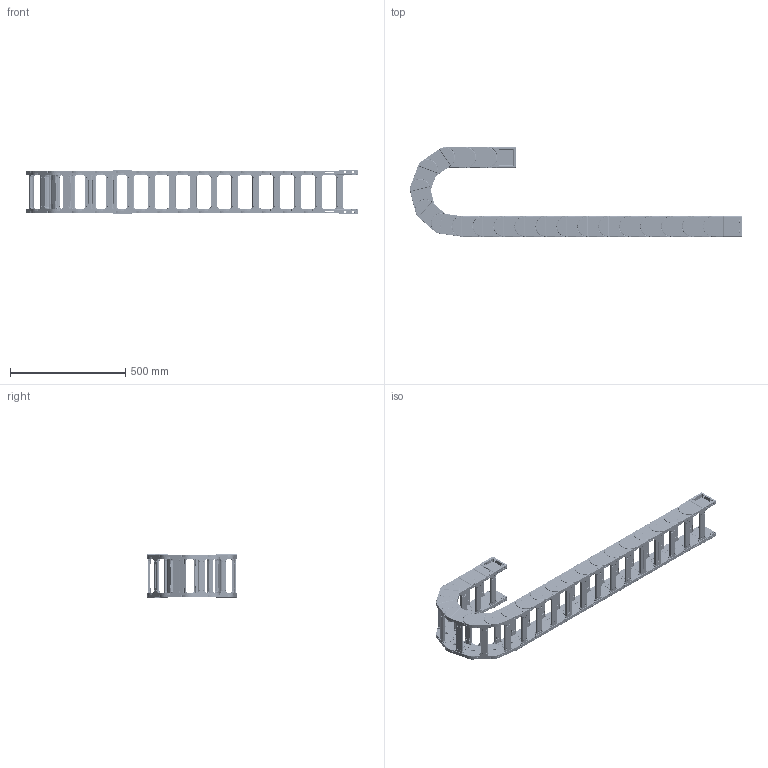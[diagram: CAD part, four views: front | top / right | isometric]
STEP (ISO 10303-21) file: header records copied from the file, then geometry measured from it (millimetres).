
FILE_DESCRIPTION (( 'STEP AP214' ), '1' );
FILE_NAME ('J60Q.1.150S-3D賦凳芞.STEP', '2019-01-10T01:11:41', ( 'Sky123.Org' ), ( 'Sky123.Org' ), 'SwSTEP 2.0', 'SolidWorks 2017', '' );
FILE_SCHEMA (( 'AUTOMOTIVE_DESIGN' ));
Length unit declared in the file: millimetre
Products named in the file (10): J60Q.1.100S-桥式-外接头; J60Q.1-源諉芛-W; J60Q.1.100S-桥式-内接头; 臏簽12X9; J60Q.1-源諉芛-N; J60Q.1.100S-桥式-单节主体; J60-H80-100結え; J60Q.1-翋极-R-2018.3.30; J60Q.1-翋极-L-2018.3.30; J60Q.1.150S-3D賦凳芞
Assembly tree (57 placements, depth 3):
  J60Q.1.150S-3D賦凳芞
    J60Q.1.100S-桥式-单节主体  x19
      J60Q.1-翋极-L-2018.3.30
      J60Q.1-翋极-R-2018.3.30
      J60-H80-100結え
    J60Q.1.100S-桥式-内接头
      J60Q.1-源諉芛-N  x2
      J60-H80-100結え  x2
      臏簽12X9  x12
    J60Q.1.100S-桥式-外接头
      J60Q.1-源諉芛-W  x2
      J60-H80-100結え  x2
      臏簽12X9  x12
Bounding box: 1442.11 x 388.53 x 190 mm (x, y, z)
Volume: 7210540.9 mm3; surface area: 2398422.6 mm2
Topology: 108 solids, 148 shells, 19975 faces, 52506 edges, 33104 vertices
Faces by surface type: plane 9891, cylinder 6288, bspline 1518, torus 1288, sphere 778, cone 212
Entity records: 36164 total; most frequent: CARTESIAN_POINT 8515, ORIENTED_EDGE 4950, DIRECTION 4876, EDGE_CURVE 2475, AXIS2_PLACEMENT_3D 1648, VERTEX_POINT 1583, LINE 1580, VECTOR 1580
